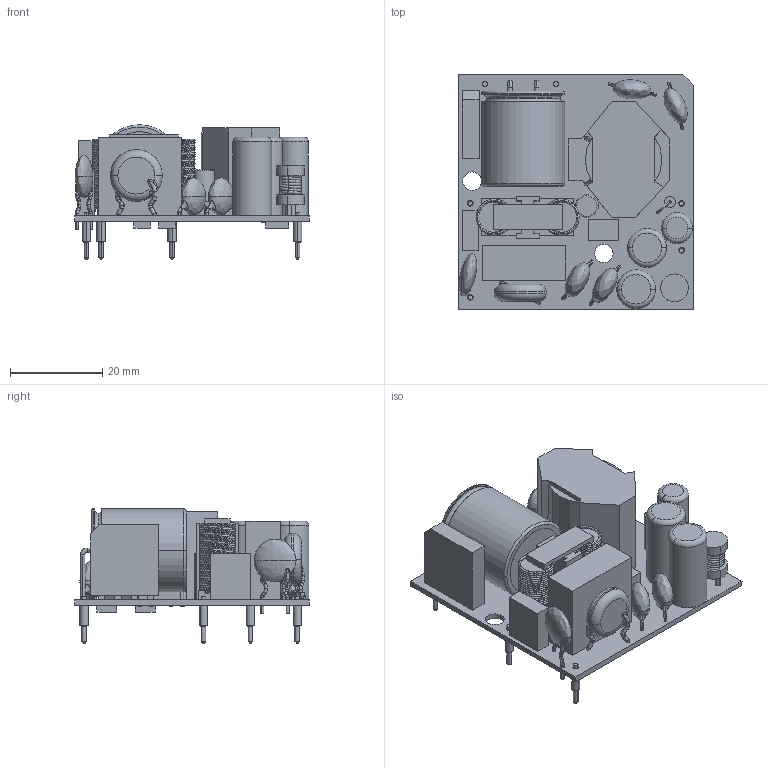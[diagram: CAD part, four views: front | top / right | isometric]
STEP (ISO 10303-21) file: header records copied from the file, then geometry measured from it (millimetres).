
FILE_DESCRIPTION (( 'STEP AP203' ), '1' );
FILE_NAME ('CFM41S.STEP', '2019-06-05T08:26:28', ( 'cincon' ), ( '' ), 'SwSTEP 2.0', 'SolidWorks 2017', '' );
FILE_SCHEMA (( 'CONFIG_CONTROL_DESIGN' ));
Length unit declared in the file: millimetre
Products named in the file (10): PIN; CFM40M UZ1 990210; 電容(18X21.5); 電感-雙線圈; CFM41S; CFM41S_PCB01; CFM40M CY1 990210; CFM40M UZ2 990210; 電感; 變壓器
Assembly tree (17 placements, depth 2):
  CFM41S
    CFM41S_PCB01
    CFM40M CY1 990210  x4
    CFM40M UZ2 990210
    電感
    變壓器
    PIN  x6
    CFM40M UZ1 990210
    電容(18X21.5)
    電感-雙線圈
Bounding box: 50.8 x 50.8 x 29.09 mm (x, y, z)
Volume: 25832.8 mm3; surface area: 18651.8 mm2
Topology: 17 solids, 17 shells, 715 faces, 2171 edges, 1428 vertices
Faces by surface type: plane 286, cylinder 217, bspline 112, torus 88, cone 12
Entity records: 61460 total; most frequent: CARTESIAN_POINT 44157, ORIENTED_EDGE 3742, DIRECTION 2878, EDGE_CURVE 1871, VERTEX_POINT 1246, AXIS2_PLACEMENT_3D 1051, EDGE_LOOP 815, VECTOR 776
